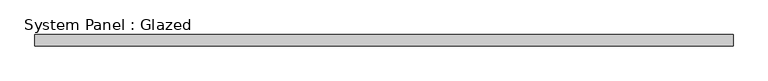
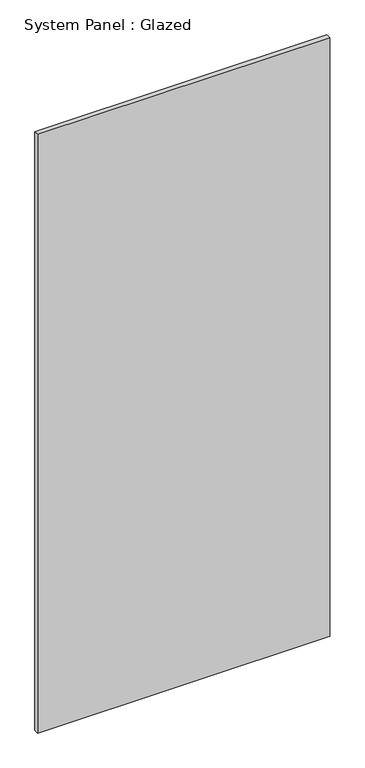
"""IFC4 building model written with IfcOpenShell, lengths in millimetres: plate geometry, System Panel : Glazed."""

from ifc_helpers import new_model, si_unit, origin, origin_with_axes, place, context, project, spatial, polyline, outline, extrude, source, transform, mapped, element, save


def system_panel_glazed_ff630af2(model_context):
    return source(origin(), model_context, "Body", "SweptSolid", [
        extrude(outline(polyline([(796.9250048, 19.05), (-796.9250048, 19.05), (-796.9250048, 44.45), (796.9250048, 44.45), (796.9250048, 19.05)])), origin_with_axes(), (0.0, 0.0, 1.0), 3454.4),
    ])


if __name__ == "__main__":
    model = new_model("IFC4")
    model_context = context("Model", 3, world=origin())
    ifc_project = project(units=[si_unit("LENGTHUNIT", "METRE", prefix="MILLI")], contexts=[model_context])
    site = spatial("IfcSite", under=ifc_project)
    building = spatial("IfcBuilding", under=site)
    placement = place(None, origin())
    system_panel_glazed_shape = system_panel_glazed_ff630af2(model_context)
    element("IfcPlate", 1, ObjectType="System Panel : Glazed", at=placement, inside=building, context=model_context, shape_type="MappedRepresentation", body=[
        mapped(system_panel_glazed_shape, transform((0.0, 0.0, 0.0), x_axis=(1.0, 0.0, 0.0), y_axis=(0.0, 1.0, 0.0), z_axis=(0.0, 0.0, 1.0))),
    ])
    save(model, "model.ifc")
